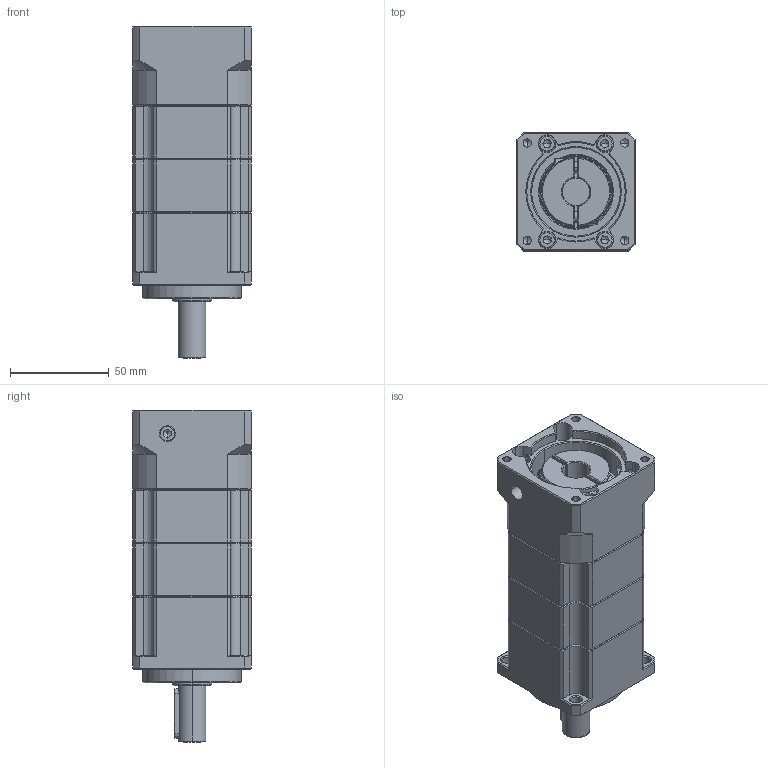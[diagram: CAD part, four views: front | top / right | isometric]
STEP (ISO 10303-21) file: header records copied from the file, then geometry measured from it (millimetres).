
FILE_DESCRIPTION (( 'STEP AP214' ), '1' );
FILE_NAME ('ZPB060-D14-L3-P1-14-50-70-M5.step', '2024-04-23T15:40:25', ( 'Windows 蚚誧' ), ( 'Organization' ), 'SwSTEP 2.0', 'SolidWorks 2016', '' );
FILE_SCHEMA (( 'AUTOMOTIVE_DESIGN' ));
Length unit declared in the file: millimetre
Products named in the file (1): ZPB060-D14-L3-P1-14-50-70-M5
Bounding box: 60 x 60 x 168.5 mm (x, y, z)
Volume: 403928.6 mm3; surface area: 81184.4 mm2
Topology: 14 solids, 22 shells, 2077 faces, 5764 edges, 3703 vertices
Faces by surface type: plane 1087, bspline 373, cylinder 283, cone 196, torus 92, sphere 46
Entity records: 107933 total; most frequent: CARTESIAN_POINT 35541, ORIENTED_EDGE 11222, DIRECTION 8684, EDGE_CURVE 5611, VERTEX_POINT 3634, VECTOR 3390, LINE 3390, AXIS2_PLACEMENT_3D 2647
